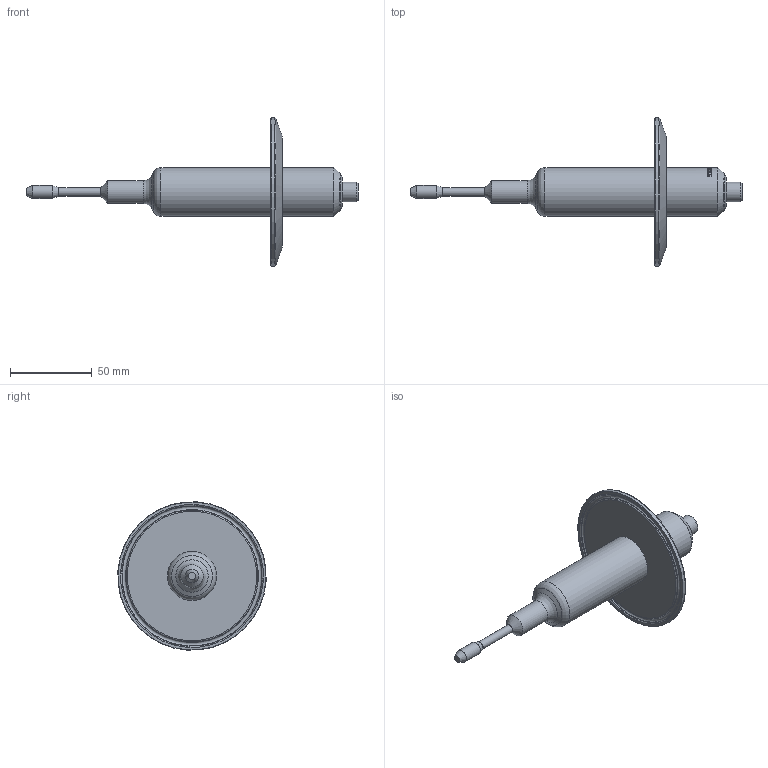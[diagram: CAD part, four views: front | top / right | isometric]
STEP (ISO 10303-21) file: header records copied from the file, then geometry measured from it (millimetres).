
FILE_DESCRIPTION(/* description */ ('Unknown'),/* implementation_level */ '2;1');
FILE_NAME(/* name */ 'SRV-HD-X5-A150-B30T',/* time_stamp */ '2024-09-23T07:21:31-05:00',/* author */ ('Unknown'),/* organization */ ('Unknown'),/* preprocessor_version */ 'ST-DEVELOPER v16.7',/* originating_system */ 'Solid Edge',/* authorisation */ 'Unknown');
FILE_SCHEMA (('AUTOMOTIVE_DESIGN {1 0 10303 214 3 1 1}'));
Length unit declared in the file: millimetre
Products named in the file (1): SRV-HD-X5-A150-B30T
Bounding box: 203.4 x 90.77 x 90.77 mm (x, y, z)
Volume: 120842.8 mm3; surface area: 26897.5 mm2
Topology: 1 solids, 1 shells, 171 faces, 434 edges, 284 vertices
Faces by surface type: bspline 71, cylinder 38, plane 35, cone 10, torus 9, sphere 8
Full cylindrical faces by diameter (mm): 0.8 x8, 5 x1, 8 x2, 12 x1, 13.9 x1, 30 x2, 91 x1
Entity records: 9394 total; most frequent: CARTESIAN_POINT 4852, ORIENTED_EDGE 738, DIRECTION 472, EDGE_CURVE 369, VERTEX_POINT 262, EDGE_LOOP 233, FACE_BOUND 233, AXIS2_PLACEMENT_3D 173
